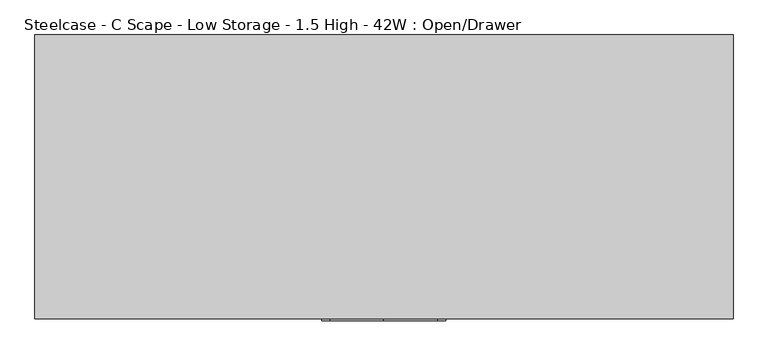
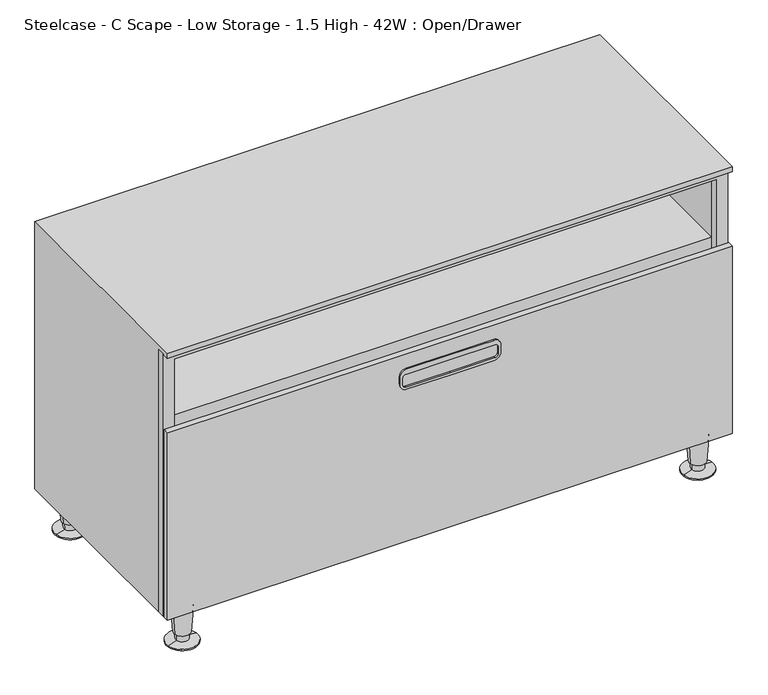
"""IFC4 building model written with IfcOpenShell, lengths in millimetres: furniture geometry, Steelcase - C Scape - Low Storage - 1.5 High - 42W : Open/Drawer."""

from ifc_helpers import new_model, si_unit, point, frame, frame_2d, origin, place, context, project, spatial, polyline, circle_curve, trimmed, segment, composite_curve, outline, extrude, faceted_brep, source, transform, mapped, element, save
from ifc_brep_helpers import plane_surface, cylinder_surface, revolved_surface, advanced_brep


def steelcase_c_scape_low_storage_1_5_high_42w_open_drawer_89e64cfe(model_context):
    return source(origin(), model_context, "Body", "SolidModel", [
        extrude(outline(polyline([(599.44, 532.2710512), (599.44, 0.0), (76.1999955, 0.0), (76.1999955, 1065.53), (599.44, 1065.53), (599.44, 532.2710512)]), holes=[polyline([(92.7100024, 1043.5617285), (92.7100024, 21.3382324), (582.93, 21.3382324), (582.93, 1043.5617285), (92.7100024, 1043.5617285)])]), frame((0.0, -419.3484735, 0.0), z_axis=(0.0, 1.0, 0.0), x_axis=(0.0, 0.0, 1.0)), (0.0, 0.0, 1.0), 14.9862946),
        extrude(outline(composite_curve([segment(trimmed(circle_curve(frame_2d((409.5749879, 450.2147442)), 12.7), [point((422.2749879, 450.2147442))], [point((409.5749879, 437.5147442))], False, "CARTESIAN"), True, "CONTINUOUS"), segment(polyline([(409.5749879, 437.5147442), (394.970017, 437.5147442)]), True, "CONTINUOUS"), segment(trimmed(circle_curve(frame_2d((394.970017, 450.2147442)), 12.7), [point((394.970017, 437.5147442))], [point((382.270017, 450.2147442))], False, "CARTESIAN"), True, "CONTINUOUS"), segment(polyline([(382.270017, 450.2147442), (382.270017, 532.4475), (382.270017, 614.6802558)]), True, "CONTINUOUS"), segment(trimmed(circle_curve(frame_2d((394.970017, 614.6802558)), 12.7), [point((382.270017, 614.6802558))], [point((394.970017, 627.3802558))], False, "CARTESIAN"), True, "CONTINUOUS"), segment(polyline([(394.970017, 627.3802558), (409.5749879, 627.3802558)]), True, "CONTINUOUS"), segment(trimmed(circle_curve(frame_2d((409.5749879, 614.6802558)), 12.7), [point((409.5749879, 627.3802558))], [point((422.2749879, 614.6802558))], False, "CARTESIAN"), True, "CONTINUOUS"), segment(polyline([(422.2749879, 614.6802558), (422.2749879, 532.4475), (422.2749879, 450.2147442)]), True, "CONTINUOUS")], self_intersect=False), holes=[composite_curve([segment(trimmed(circle_curve(frame_2d((406.1460063, 448.6923565)), 6.35), [point((406.1460063, 442.3423565))], [point((412.4960063, 448.6923565))], True, "CARTESIAN"), True, "CONTINUOUS"), segment(polyline([(412.4960063, 448.6923565), (412.4960063, 532.4475), (412.4960063, 616.2026435)]), True, "CONTINUOUS"), segment(trimmed(circle_curve(frame_2d((406.1460063, 616.2026435)), 6.35), [point((412.4960063, 616.2026435))], [point((406.1460063, 622.5526435))], True, "CARTESIAN"), True, "CONTINUOUS"), segment(polyline([(406.1460063, 622.5526435), (393.4459942, 622.5526435)]), True, "CONTINUOUS"), segment(trimmed(circle_curve(frame_2d((393.4459942, 616.2026435)), 6.35), [point((393.4459942, 622.5526435))], [point((387.0959942, 616.2026435))], True, "CARTESIAN"), True, "CONTINUOUS"), segment(polyline([(387.0959942, 616.2026435), (387.0959942, 532.4475), (387.0959942, 448.6923565)]), True, "CONTINUOUS"), segment(trimmed(circle_curve(frame_2d((393.4459942, 448.6923565)), 6.35), [point((387.0959942, 448.6923565))], [point((393.4459942, 442.3423565))], True, "CARTESIAN"), True, "CONTINUOUS"), segment(polyline([(393.4459942, 442.3423565), (406.1460063, 442.3423565)]), True, "CONTINUOUS")], self_intersect=False)]), frame((0.0, -436.118, 0.0), z_axis=(0.0, 1.0, 0.0), x_axis=(0.0, 0.0, 1.0)), (0.0, 0.0, 1.0), 3.048),
        advanced_brep(
        [(1038.2598695, -31.5218435, 76.2), (1000.5981305, -37.2840847, 76.2), (1019.429, -34.4029641, 76.2), (1034.3095214, -32.1262463, 19.05), (1004.5484786, -36.6796819, 19.05), (1031.8799345, -32.4979728, 19.05), (1006.9780655, -36.3079555, 19.05), (1031.191165, -32.6033544, 5.7545598), (1007.666835, -36.2025738, 5.7545598), (1048.5400485, -29.9489775, 2.5119506), (990.3179515, -38.8569507, 2.5119506), (1048.5400485, -29.9489775, 0.0), (990.3179515, -38.8569507, 0.0), (1019.429, -34.4029641, 0.0)],
        [
            (0, 1, circle_curve(frame((1019.429, -34.4029641, 76.2), z_axis=(0.0, 0.0, 1.0), x_axis=(0.0, -1.0, 0.0)), 19.05)),
            (1, 2),
            (2, 0),
            (1, 0, circle_curve(frame((1019.429, -34.4029641, 76.2), z_axis=(0.0, 0.0, 1.0), x_axis=(0.0, -1.0, 0.0)), 19.05)),
            (3, 4, circle_curve(frame((1019.429, -34.4029641, 19.05), z_axis=(0.0, 0.0, 1.0), x_axis=(0.0, -1.0, 0.0)), 15.0536827)),
            (4, 1),
            (0, 3),
            (4, 3, circle_curve(frame((1019.429, -34.4029641, 19.05), z_axis=(0.0, 0.0, 1.0), x_axis=(0.0, -1.0, 0.0)), 15.0536827)),
            (5, 6, circle_curve(frame((1019.429, -34.4029641, 19.05), z_axis=(0.0, 0.0, 1.0), x_axis=(0.0, -1.0, 0.0)), 12.5958232)),
            (6, 4),
            (3, 5),
            (6, 5, circle_curve(frame((1019.429, -34.4029641, 19.05), z_axis=(0.0, 0.0, 1.0), x_axis=(0.0, -1.0, 0.0)), 12.5958232)),
            (7, 8, circle_curve(frame((1019.429, -34.4029641, 5.7545598), z_axis=(0.0, 0.0, 1.0), x_axis=(0.0, -1.0, 0.0)), 11.8990387)),
            (8, 6),
            (5, 7),
            (8, 7, circle_curve(frame((1019.429, -34.4029641, 5.7545598), z_axis=(0.0, 0.0, 1.0), x_axis=(0.0, -1.0, 0.0)), 11.8990387)),
            (9, 10, circle_curve(frame((1019.429, -34.4029641, 2.5119506), z_axis=(0.0, 0.0, 1.0), x_axis=(0.0, -1.0, 0.0)), 29.4498071)),
            (10, 8),
            (7, 9),
            (10, 9, circle_curve(frame((1019.429, -34.4029641, 2.5119506), z_axis=(0.0, 0.0, 1.0), x_axis=(0.0, -1.0, 0.0)), 29.4498071)),
            (11, 12, circle_curve(frame((1019.429, -34.4029641, 0.0), z_axis=(0.0, 0.0, 1.0), x_axis=(0.0, -1.0, 0.0)), 29.4498071)),
            (12, 10),
            (9, 11),
            (12, 11, circle_curve(frame((1019.429, -34.4029641, 0.0), z_axis=(0.0, 0.0, 1.0), x_axis=(0.0, -1.0, 0.0)), 29.4498071)),
            (13, 12),
            (11, 13),
        ],
        [
            plane_surface(frame((1019.429, -34.4029641, 76.2), z_axis=(0.0, 0.0, 1.0), x_axis=(0.0, -1.0, 0.0))),
            revolved_surface(polyline([(1019.429, -53.4529641, 76.2), (1019.429, -49.4566468, 19.05)]), (1019.429, -34.4029641, 25.4), (0.0, 0.0, -1.0)),
            plane_surface(frame((1019.429, -34.4029641, 19.05), z_axis=(0.0, 0.0, -1.0), x_axis=(0.0, -1.0, 0.0))),
            revolved_surface(polyline([(1019.429, -46.9987873, 19.05), (1019.429, -46.3020028, 5.7545598)]), (1019.429, -34.4029641, 25.4), (0.0, 0.0, -1.0)),
            revolved_surface(polyline([(1019.429, -46.3020028, 5.7545598), (1019.429, -63.8527712, 2.5119506)]), (1019.429, -34.4029641, 25.4), (0.0, 0.0, -1.0)),
            cylinder_surface(frame((1019.429, -34.4029641, 25.4), z_axis=(0.0, 0.0, -1.0), x_axis=(0.0, -1.0, 0.0)), 29.4498071),
            plane_surface(frame((1019.429, -34.4029641, 0.0), z_axis=(0.0, 0.0, -1.0), x_axis=(0.0, -1.0, 0.0))),
        ],
        [
            (0, [[1, 2, 3]]),
            (0, [[4, -3, -2]]),
            (1, [[5, 6, -1, 7]]),
            (1, [[8, -7, -4, -6]]),
            (2, [[9, 10, -5, 11]]),
            (2, [[12, -11, -8, -10]]),
            (3, [[13, 14, -9, 15]]),
            (3, [[16, -15, -12, -14]]),
            (4, [[17, 18, -13, 19]]),
            (4, [[20, -19, -16, -18]]),
            (5, [[21, 22, -17, 23]]),
            (5, [[24, -23, -20, -22]]),
            (6, [[25, -21, 26]]),
            (6, [[-26, -24, -25]]),
        ],
    ),
        advanced_brep(
        [(1038.2598695, -397.1702762, 76.2), (1000.5981305, -402.9325174, 76.2), (1019.429, -400.0513968, 76.2), (1034.3095214, -397.774679, 19.05), (1004.5484786, -402.3281146, 19.05), (1031.8799345, -398.1464055, 19.05), (1006.9780655, -401.9563882, 19.05), (1031.191165, -398.2517871, 5.7545598), (1007.666835, -401.8510065, 5.7545598), (1048.5400485, -395.5974102, 2.5119506), (990.3179515, -404.5053834, 2.5119506), (1048.5400485, -395.5974102, 0.0), (990.3179515, -404.5053834, 0.0), (1019.429, -400.0513968, 0.0)],
        [
            (0, 1, circle_curve(frame((1019.429, -400.0513968, 76.2), z_axis=(0.0, 0.0, 1.0), x_axis=(0.0, -1.0, 0.0)), 19.05)),
            (1, 2),
            (2, 0),
            (1, 0, circle_curve(frame((1019.429, -400.0513968, 76.2), z_axis=(0.0, 0.0, 1.0), x_axis=(0.0, -1.0, 0.0)), 19.05)),
            (3, 4, circle_curve(frame((1019.429, -400.0513968, 19.05), z_axis=(0.0, 0.0, 1.0), x_axis=(0.0, -1.0, 0.0)), 15.0536827)),
            (4, 1),
            (0, 3),
            (4, 3, circle_curve(frame((1019.429, -400.0513968, 19.05), z_axis=(0.0, 0.0, 1.0), x_axis=(0.0, -1.0, 0.0)), 15.0536827)),
            (5, 6, circle_curve(frame((1019.429, -400.0513968, 19.05), z_axis=(0.0, 0.0, 1.0), x_axis=(0.0, -1.0, 0.0)), 12.5958232)),
            (6, 4),
            (3, 5),
            (6, 5, circle_curve(frame((1019.429, -400.0513968, 19.05), z_axis=(0.0, 0.0, 1.0), x_axis=(0.0, -1.0, 0.0)), 12.5958232)),
            (7, 8, circle_curve(frame((1019.429, -400.0513968, 5.7545598), z_axis=(0.0, 0.0, 1.0), x_axis=(0.0, -1.0, 0.0)), 11.8990387)),
            (8, 6),
            (5, 7),
            (8, 7, circle_curve(frame((1019.429, -400.0513968, 5.7545598), z_axis=(0.0, 0.0, 1.0), x_axis=(0.0, -1.0, 0.0)), 11.8990387)),
            (9, 10, circle_curve(frame((1019.429, -400.0513968, 2.5119506), z_axis=(0.0, 0.0, 1.0), x_axis=(0.0, -1.0, 0.0)), 29.4498071)),
            (10, 8),
            (7, 9),
            (10, 9, circle_curve(frame((1019.429, -400.0513968, 2.5119506), z_axis=(0.0, 0.0, 1.0), x_axis=(0.0, -1.0, 0.0)), 29.4498071)),
            (11, 12, circle_curve(frame((1019.429, -400.0513968, 0.0), z_axis=(0.0, 0.0, 1.0), x_axis=(0.0, -1.0, 0.0)), 29.4498071)),
            (12, 10),
            (9, 11),
            (12, 11, circle_curve(frame((1019.429, -400.0513968, 0.0), z_axis=(0.0, 0.0, 1.0), x_axis=(0.0, -1.0, 0.0)), 29.4498071)),
            (13, 12),
            (11, 13),
        ],
        [
            plane_surface(frame((1019.429, -400.0513968, 76.2), z_axis=(0.0, 0.0, 1.0), x_axis=(0.0, -1.0, 0.0))),
            revolved_surface(polyline([(1019.429, -419.1013968, 76.2), (1019.429, -415.1050795, 19.05)]), (1019.429, -400.0513968, 25.4), (0.0, 0.0, -1.0)),
            plane_surface(frame((1019.429, -400.0513968, 19.05), z_axis=(0.0, 0.0, -1.0), x_axis=(0.0, -1.0, 0.0))),
            revolved_surface(polyline([(1019.429, -412.64722, 19.05), (1019.429, -411.9504355, 5.7545598)]), (1019.429, -400.0513968, 25.4), (0.0, 0.0, -1.0)),
            revolved_surface(polyline([(1019.429, -411.9504355, 5.7545598), (1019.429, -429.5012039, 2.5119506)]), (1019.429, -400.0513968, 25.4), (0.0, 0.0, -1.0)),
            cylinder_surface(frame((1019.429, -400.0513968, 25.4), z_axis=(0.0, 0.0, -1.0), x_axis=(0.0, -1.0, 0.0)), 29.4498071),
            plane_surface(frame((1019.429, -400.0513968, 0.0), z_axis=(0.0, 0.0, -1.0), x_axis=(0.0, -1.0, 0.0))),
        ],
        [
            (0, [[1, 2, 3]]),
            (0, [[4, -3, -2]]),
            (1, [[5, 6, -1, 7]]),
            (1, [[8, -7, -4, -6]]),
            (2, [[9, 10, -5, 11]]),
            (2, [[12, -11, -8, -10]]),
            (3, [[13, 14, -9, 15]]),
            (3, [[16, -15, -12, -14]]),
            (4, [[17, 18, -13, 19]]),
            (4, [[20, -19, -16, -18]]),
            (5, [[21, 22, -17, 23]]),
            (5, [[24, -23, -20, -22]]),
            (6, [[25, -21, 26]]),
            (6, [[-26, -24, -25]]),
        ],
    ),
        advanced_brep(
        [(65.5422821, -397.1702762, 76.2), (27.8805432, -402.9325174, 76.2), (46.7114126, -400.0513968, 76.2), (61.5919341, -397.774679, 19.05), (31.8308912, -402.3281146, 19.05), (59.1623471, -398.1464055, 19.05), (34.2604781, -401.9563882, 19.05), (58.4735776, -398.2517871, 5.7545598), (34.9492476, -401.8510065, 5.7545598), (75.8224611, -395.5974102, 2.5119506), (17.6003641, -404.5053834, 2.5119506), (75.8224611, -395.5974102, 0.0), (17.6003641, -404.5053834, 0.0), (46.7114126, -400.0513968, 0.0)],
        [
            (0, 1, circle_curve(frame((46.7114126, -400.0513968, 76.2), z_axis=(0.0, 0.0, 1.0), x_axis=(0.0, -1.0, 0.0)), 19.05)),
            (1, 2),
            (2, 0),
            (1, 0, circle_curve(frame((46.7114126, -400.0513968, 76.2), z_axis=(0.0, 0.0, 1.0), x_axis=(0.0, -1.0, 0.0)), 19.05)),
            (3, 4, circle_curve(frame((46.7114126, -400.0513968, 19.05), z_axis=(0.0, 0.0, 1.0), x_axis=(0.0, -1.0, 0.0)), 15.0536827)),
            (4, 1),
            (0, 3),
            (4, 3, circle_curve(frame((46.7114126, -400.0513968, 19.05), z_axis=(0.0, 0.0, 1.0), x_axis=(0.0, -1.0, 0.0)), 15.0536827)),
            (5, 6, circle_curve(frame((46.7114126, -400.0513968, 19.05), z_axis=(0.0, 0.0, 1.0), x_axis=(0.0, -1.0, 0.0)), 12.5958232)),
            (6, 4),
            (3, 5),
            (6, 5, circle_curve(frame((46.7114126, -400.0513968, 19.05), z_axis=(0.0, 0.0, 1.0), x_axis=(0.0, -1.0, 0.0)), 12.5958232)),
            (7, 8, circle_curve(frame((46.7114126, -400.0513968, 5.7545598), z_axis=(0.0, 0.0, 1.0), x_axis=(0.0, -1.0, 0.0)), 11.8990387)),
            (8, 6),
            (5, 7),
            (8, 7, circle_curve(frame((46.7114126, -400.0513968, 5.7545598), z_axis=(0.0, 0.0, 1.0), x_axis=(0.0, -1.0, 0.0)), 11.8990387)),
            (9, 10, circle_curve(frame((46.7114126, -400.0513968, 2.5119506), z_axis=(0.0, 0.0, 1.0), x_axis=(0.0, -1.0, 0.0)), 29.4498071)),
            (10, 8),
            (7, 9),
            (10, 9, circle_curve(frame((46.7114126, -400.0513968, 2.5119506), z_axis=(0.0, 0.0, 1.0), x_axis=(0.0, -1.0, 0.0)), 29.4498071)),
            (11, 12, circle_curve(frame((46.7114126, -400.0513968, 0.0), z_axis=(0.0, 0.0, 1.0), x_axis=(0.0, -1.0, 0.0)), 29.4498071)),
            (12, 10),
            (9, 11),
            (12, 11, circle_curve(frame((46.7114126, -400.0513968, 0.0), z_axis=(0.0, 0.0, 1.0), x_axis=(0.0, -1.0, 0.0)), 29.4498071)),
            (13, 12),
            (11, 13),
        ],
        [
            plane_surface(frame((46.7114126, -400.0513968, 76.2), z_axis=(0.0, 0.0, 1.0), x_axis=(0.0, -1.0, 0.0))),
            revolved_surface(polyline([(46.7114126, -419.1013968, 76.2), (46.7114126, -415.1050795, 19.05)]), (46.7114126, -400.0513968, 25.4), (0.0, 0.0, -1.0)),
            plane_surface(frame((46.7114126, -400.0513968, 19.05), z_axis=(0.0, 0.0, -1.0), x_axis=(0.0, -1.0, 0.0))),
            revolved_surface(polyline([(46.7114126, -412.64722, 19.05), (46.7114126, -411.9504355, 5.7545598)]), (46.7114126, -400.0513968, 25.4), (0.0, 0.0, -1.0)),
            revolved_surface(polyline([(46.7114126, -411.9504355, 5.7545598), (46.7114126, -429.5012039, 2.5119506)]), (46.7114126, -400.0513968, 25.4), (0.0, 0.0, -1.0)),
            cylinder_surface(frame((46.7114126, -400.0513968, 25.4), z_axis=(0.0, 0.0, -1.0), x_axis=(0.0, -1.0, 0.0)), 29.4498071),
            plane_surface(frame((46.7114126, -400.0513968, 0.0), z_axis=(0.0, 0.0, -1.0), x_axis=(0.0, -1.0, 0.0))),
        ],
        [
            (0, [[1, 2, 3]]),
            (0, [[4, -3, -2]]),
            (1, [[5, 6, -1, 7]]),
            (1, [[8, -7, -4, -6]]),
            (2, [[9, 10, -5, 11]]),
            (2, [[12, -11, -8, -10]]),
            (3, [[13, 14, -9, 15]]),
            (3, [[16, -15, -12, -14]]),
            (4, [[17, 18, -13, 19]]),
            (4, [[20, -19, -16, -18]]),
            (5, [[21, 22, -17, 23]]),
            (5, [[24, -23, -20, -22]]),
            (6, [[25, -21, 26]]),
            (6, [[-26, -24, -25]]),
        ],
    ),
        advanced_brep(
        [(65.5422821, -31.5218435, 76.2), (27.8805432, -37.2840847, 76.2), (46.7114126, -34.4029641, 76.2), (61.5919341, -32.1262463, 19.05), (31.8308912, -36.6796819, 19.05), (59.1623471, -32.4979728, 19.05), (34.2604781, -36.3079555, 19.05), (58.4735776, -32.6033544, 5.7545598), (34.9492476, -36.2025738, 5.7545598), (75.8224611, -29.9489775, 2.5119506), (17.6003641, -38.8569507, 2.5119506), (75.8224611, -29.9489775, 0.0), (17.6003641, -38.8569507, 0.0), (46.7114126, -34.4029641, 0.0)],
        [
            (0, 1, circle_curve(frame((46.7114126, -34.4029641, 76.2), z_axis=(0.0, 0.0, 1.0), x_axis=(0.0, -1.0, 0.0)), 19.05)),
            (1, 2),
            (2, 0),
            (1, 0, circle_curve(frame((46.7114126, -34.4029641, 76.2), z_axis=(0.0, 0.0, 1.0), x_axis=(0.0, -1.0, 0.0)), 19.05)),
            (3, 4, circle_curve(frame((46.7114126, -34.4029641, 19.05), z_axis=(0.0, 0.0, 1.0), x_axis=(0.0, -1.0, 0.0)), 15.0536827)),
            (4, 1),
            (0, 3),
            (4, 3, circle_curve(frame((46.7114126, -34.4029641, 19.05), z_axis=(0.0, 0.0, 1.0), x_axis=(0.0, -1.0, 0.0)), 15.0536827)),
            (5, 6, circle_curve(frame((46.7114126, -34.4029641, 19.05), z_axis=(0.0, 0.0, 1.0), x_axis=(0.0, -1.0, 0.0)), 12.5958232)),
            (6, 4),
            (3, 5),
            (6, 5, circle_curve(frame((46.7114126, -34.4029641, 19.05), z_axis=(0.0, 0.0, 1.0), x_axis=(0.0, -1.0, 0.0)), 12.5958232)),
            (7, 8, circle_curve(frame((46.7114126, -34.4029641, 5.7545598), z_axis=(0.0, 0.0, 1.0), x_axis=(0.0, -1.0, 0.0)), 11.8990387)),
            (8, 6),
            (5, 7),
            (8, 7, circle_curve(frame((46.7114126, -34.4029641, 5.7545598), z_axis=(0.0, 0.0, 1.0), x_axis=(0.0, -1.0, 0.0)), 11.8990387)),
            (9, 10, circle_curve(frame((46.7114126, -34.4029641, 2.5119506), z_axis=(0.0, 0.0, 1.0), x_axis=(0.0, -1.0, 0.0)), 29.4498071)),
            (10, 8),
            (7, 9),
            (10, 9, circle_curve(frame((46.7114126, -34.4029641, 2.5119506), z_axis=(0.0, 0.0, 1.0), x_axis=(0.0, -1.0, 0.0)), 29.4498071)),
            (11, 12, circle_curve(frame((46.7114126, -34.4029641, 0.0), z_axis=(0.0, 0.0, 1.0), x_axis=(0.0, -1.0, 0.0)), 29.4498071)),
            (12, 10),
            (9, 11),
            (12, 11, circle_curve(frame((46.7114126, -34.4029641, 0.0), z_axis=(0.0, 0.0, 1.0), x_axis=(0.0, -1.0, 0.0)), 29.4498071)),
            (13, 12),
            (11, 13),
        ],
        [
            plane_surface(frame((46.7114126, -34.4029641, 76.2), z_axis=(0.0, 0.0, 1.0), x_axis=(0.0, -1.0, 0.0))),
            revolved_surface(polyline([(46.7114126, -53.4529641, 76.2), (46.7114126, -49.4566468, 19.05)]), (46.7114126, -34.4029641, 25.4), (0.0, 0.0, -1.0)),
            plane_surface(frame((46.7114126, -34.4029641, 19.05), z_axis=(0.0, 0.0, -1.0), x_axis=(0.0, -1.0, 0.0))),
            revolved_surface(polyline([(46.7114126, -46.9987873, 19.05), (46.7114126, -46.3020028, 5.7545598)]), (46.7114126, -34.4029641, 25.4), (0.0, 0.0, -1.0)),
            revolved_surface(polyline([(46.7114126, -46.3020028, 5.7545598), (46.7114126, -63.8527712, 2.5119506)]), (46.7114126, -34.4029641, 25.4), (0.0, 0.0, -1.0)),
            cylinder_surface(frame((46.7114126, -34.4029641, 25.4), z_axis=(0.0, 0.0, -1.0), x_axis=(0.0, -1.0, 0.0)), 29.4498071),
            plane_surface(frame((46.7114126, -34.4029641, 0.0), z_axis=(0.0, 0.0, -1.0), x_axis=(0.0, -1.0, 0.0))),
        ],
        [
            (0, [[1, 2, 3]]),
            (0, [[4, -3, -2]]),
            (1, [[5, 6, -1, 7]]),
            (1, [[8, -7, -4, -6]]),
            (2, [[9, 10, -5, 11]]),
            (2, [[12, -11, -8, -10]]),
            (3, [[13, 14, -9, 15]]),
            (3, [[16, -15, -12, -14]]),
            (4, [[17, 18, -13, 19]]),
            (4, [[20, -19, -16, -18]]),
            (5, [[21, 22, -17, 23]]),
            (5, [[24, -23, -20, -22]]),
            (6, [[25, -21, 26]]),
            (6, [[-26, -24, -25]]),
        ],
    ),
        faceted_brep([(0.0, 0.0, 609.6), (1065.53, 0.0, 609.6), (1065.53, 0.0, 458.7875121), (1065.53, 0.0, 435.8005068), (1065.53, 0.0, 76.2), (0.0, 0.0, 76.2), (0.0, 0.0, 435.8005068), (0.0, 0.0, 458.7875121), (0.0, -404.362179, 76.2), (0.0, -404.362179, 599.44), (0.0, -433.07, 599.44), (0.0, -433.07, 609.6), (1065.53, -404.362179, 76.2), (1065.53, -404.362179, 599.44), (1043.5617285, -404.362179, 599.44), (1043.5617285, -404.362179, 458.7875121), (21.3382324, -404.362179, 458.7875121), (21.3382324, -404.362179, 599.44), (1043.5617285, -404.362179, 435.8005068), (1043.5617285, -404.362179, 92.7100024), (21.3382324, -404.362179, 92.7100024), (21.3382324, -404.362179, 435.8005068), (21.3382324, -9.525, 599.44), (21.3382324, -9.525, 458.7875121), (21.3382324, -9.525, 435.8005068), (21.3382324, -9.525, 92.7100024), (1043.5617285, -9.525, 599.44), (1043.5617285, -9.525, 458.7875121), (1043.5617285, -9.525, 435.8005068), (1043.5617285, -9.525, 92.7100024), (1065.53, -433.07, 609.6), (1065.53, -433.07, 599.44)], [[[0, 1, 2, 3, 4, 5, 6, 7]], [[5, 8, 9, 10, 11, 0, 7, 6]], [[8, 12, 13, 14, 15, 16, 17, 9], [18, 19, 20, 21]], [[22, 17, 16, 23]], [[24, 21, 20, 25]], [[26, 22, 23, 27]], [[28, 24, 25, 29]], [[14, 26, 27, 15]], [[18, 28, 29, 19]], [[12, 4, 3, 2, 1, 30, 31, 13]], [[1, 0, 11, 30]], [[31, 10, 9, 17, 22, 26, 14, 13]], [[30, 11, 10, 31]], [[16, 15, 27, 23]], [[18, 21, 24, 28]], [[20, 19, 29, 25]], [[4, 12, 8, 5]]]),
        extrude(outline(polyline([(1065.53, -422.5233329), (1065.53, -433.07), (0.0, -433.07), (0.0, -422.5233329), (1065.53, -422.5233329)])), frame((0.0, 0.0, 76.2), z_axis=(0.0, 0.0, 1.0), x_axis=(1.0, 0.0, 0.0)), (0.0, 0.0, 1.0), 374.6499879),
    ])


if __name__ == "__main__":
    model = new_model("IFC4")
    model_context = context("Model", 3, world=origin())
    ifc_project = project(units=[si_unit("LENGTHUNIT", "METRE", prefix="MILLI")], contexts=[model_context])
    site = spatial("IfcSite", under=ifc_project)
    building = spatial("IfcBuilding", under=site)
    placement = place(None, origin())
    steelcase_c_scape_low_storage_1_5_high_42w_open_drawer_shape = steelcase_c_scape_low_storage_1_5_high_42w_open_drawer_89e64cfe(model_context)
    element("IfcFurniture", 1, ObjectType="Steelcase - C Scape - Low Storage - 1.5 High - 42W : Open/Drawer", at=placement, inside=building, context=model_context, shape_type="MappedRepresentation", body=[
        mapped(steelcase_c_scape_low_storage_1_5_high_42w_open_drawer_shape, transform((0.0, 0.0, 0.0), x_axis=(1.0, 0.0, 0.0), y_axis=(0.0, 1.0, 0.0), z_axis=(0.0, 0.0, 1.0))),
    ])
    save(model, "model.ifc")
